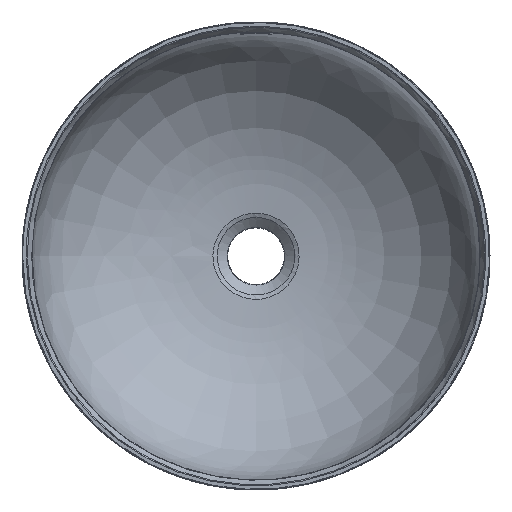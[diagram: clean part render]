
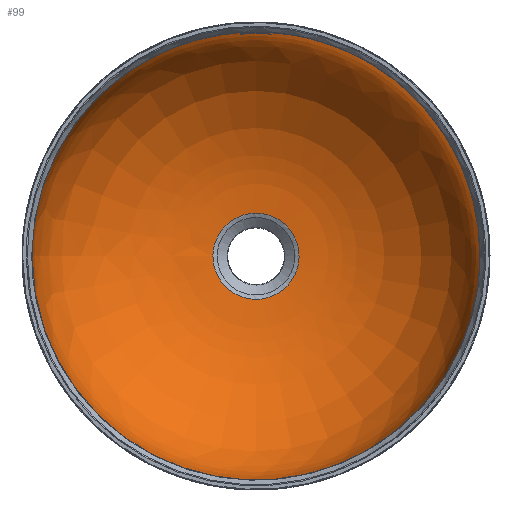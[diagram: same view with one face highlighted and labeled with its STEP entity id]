
A CAD part, top view. The second image highlights one B-rep face of the part: STEP entity #99.
In plain terms, the highlighted free-form (B-spline) face has degree [3, 2] with [4, 9] control points.
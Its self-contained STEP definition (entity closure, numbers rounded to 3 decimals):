
#99=ADVANCED_FACE('',(#461),#6076,.T.);
#461=FACE_OUTER_BOUND('',#823,.T.);
#823=EDGE_LOOP('',(#1191,#1192,#1193,#1194,#1195));
#1191=ORIENTED_EDGE('',*,*,#3250,.F.);
#1192=ORIENTED_EDGE('',*,*,#3249,.F.);
#1193=ORIENTED_EDGE('',*,*,#3250,.T.);
#1194=ORIENTED_EDGE('',*,*,#4048,.T.);
#1195=ORIENTED_EDGE('',*,*,#4046,.T.);
#3249=EDGE_CURVE('',#5309,#5309,#4989,.T.);
#3250=EDGE_CURVE('',#5309,#5833,#4990,.T.);
#4046=EDGE_CURVE('',#5836,#5833,#5271,.T.);
#4048=EDGE_CURVE('',#5833,#5836,#5273,.T.);
#4989=(
BOUNDED_CURVE()
B_SPLINE_CURVE(2,(#39214,#39215,#39216,#39217,#39218,#39219,#39220,#39221,
#39222),.UNSPECIFIED.,.T.,.F.)
B_SPLINE_CURVE_WITH_KNOTS((3,2,2,2,3),(0.,285.604,571.207,
856.811,1142.414),.UNSPECIFIED.)
CURVE()
GEOMETRIC_REPRESENTATION_ITEM()
RATIONAL_B_SPLINE_CURVE((1.,0.707,1.,0.707,1.,0.707,
1.,0.707,1.))
REPRESENTATION_ITEM('')
);
#4990=(
BOUNDED_CURVE()
B_SPLINE_CURVE(3,(#39223,#39224,#39225,#39226),.UNSPECIFIED.,.F.,.F.)
B_SPLINE_CURVE_WITH_KNOTS((4,4),(0.,212.829),.UNSPECIFIED.)
CURVE()
GEOMETRIC_REPRESENTATION_ITEM()
RATIONAL_B_SPLINE_CURVE((1.,1.,1.,1.))
REPRESENTATION_ITEM('')
);
#5271=(
BOUNDED_CURVE()
B_SPLINE_CURVE(2,(#57027,#57028,#57029,#57030,#57031,#57032,#57033),
 .UNSPECIFIED.,.F.,.F.)
B_SPLINE_CURVE_WITH_KNOTS((3,2,2,3),(-579.014,-579.014,
-289.507,0.),.UNSPECIFIED.)
CURVE()
GEOMETRIC_REPRESENTATION_ITEM()
RATIONAL_B_SPLINE_CURVE((1.,1.,1.,0.707,1.,0.707,
1.))
REPRESENTATION_ITEM('')
);
#5273=(
BOUNDED_CURVE()
B_SPLINE_CURVE(2,(#57043,#57044,#57045,#57046,#57047),.UNSPECIFIED.,.F.,
 .F.)
B_SPLINE_CURVE_WITH_KNOTS((3,2,3),(-1158.028,-868.521,
-579.014),.UNSPECIFIED.)
CURVE()
GEOMETRIC_REPRESENTATION_ITEM()
RATIONAL_B_SPLINE_CURVE((1.,0.707,1.,0.707,1.))
REPRESENTATION_ITEM('')
);
#5309=VERTEX_POINT('',#38677);
#5833=VERTEX_POINT('',#39201);
#5836=VERTEX_POINT('',#39204);
#6076=(
BOUNDED_SURFACE()
B_SPLINE_SURFACE(3,2,((#6559,#6560,#6561,#6562,#6563,#6564,#6565,#6566,
#6567),(#6568,#6569,#6570,#6571,#6572,#6573,#6574,#6575,#6576),(#6577,#6578,
#6579,#6580,#6581,#6582,#6583,#6584,#6585),(#6586,#6587,#6588,#6589,#6590,
#6591,#6592,#6593,#6594)),.UNSPECIFIED.,.F.,.F.,.F.)
B_SPLINE_SURFACE_WITH_KNOTS((4,4),(3,2,2,2,3),(0.,213.398),(0.,
285.604,571.207,856.811,1142.414),
 .UNSPECIFIED.)
GEOMETRIC_REPRESENTATION_ITEM()
RATIONAL_B_SPLINE_SURFACE(((1.,0.707,1.,0.707,1.,
0.707,1.,0.707,1.),(1.,0.707,1.,0.707,
1.,0.707,1.,0.707,1.),(1.,0.707,1.,
0.707,1.,0.707,1.,0.707,1.),(1.,0.707,
1.,0.707,1.,0.707,1.,0.707,1.)))
REPRESENTATION_ITEM('')
SURFACE()
);
#6559=CARTESIAN_POINT('',(18949.344,1341.326,-6009.424));
#6560=CARTESIAN_POINT('',(18949.344,1306.355,-6009.424));
#6561=CARTESIAN_POINT('',(18984.316,1306.355,-6009.424));
#6562=CARTESIAN_POINT('',(19019.287,1306.355,-6009.424));
#6563=CARTESIAN_POINT('',(19019.287,1341.326,-6009.424));
#6564=CARTESIAN_POINT('',(19019.287,1376.297,-6009.424));
#6565=CARTESIAN_POINT('',(18984.315,1376.297,-6009.424));
#6566=CARTESIAN_POINT('',(18949.344,1376.297,-6009.424));
#6567=CARTESIAN_POINT('',(18949.344,1341.326,-6009.424));
#6568=CARTESIAN_POINT('',(18878.079,1341.326,-6005.862));
#6569=CARTESIAN_POINT('',(18878.08,1235.09,-6005.862));
#6570=CARTESIAN_POINT('',(18984.316,1235.09,-6005.862));
#6571=CARTESIAN_POINT('',(19090.552,1235.09,-6005.862));
#6572=CARTESIAN_POINT('',(19090.552,1341.326,-6005.862));
#6573=CARTESIAN_POINT('',(19090.551,1447.563,-6005.862));
#6574=CARTESIAN_POINT('',(18984.315,1447.562,-6005.862));
#6575=CARTESIAN_POINT('',(18878.079,1447.562,-6005.862));
#6576=CARTESIAN_POINT('',(18878.079,1341.326,-6005.862));
#6577=CARTESIAN_POINT('',(18804.041,1341.326,-5963.209));
#6578=CARTESIAN_POINT('',(18804.041,1161.052,-5963.209));
#6579=CARTESIAN_POINT('',(18984.315,1161.052,-5963.209));
#6580=CARTESIAN_POINT('',(19164.59,1161.052,-5963.209));
#6581=CARTESIAN_POINT('',(19164.59,1341.326,-5963.209));
#6582=CARTESIAN_POINT('',(19164.59,1521.6,-5963.209));
#6583=CARTESIAN_POINT('',(18984.316,1521.6,-5963.209));
#6584=CARTESIAN_POINT('',(18804.041,1521.6,-5963.209));
#6585=CARTESIAN_POINT('',(18804.041,1341.326,-5963.209));
#6586=CARTESIAN_POINT('',(18802.495,1341.326,-5883.826));
#6587=CARTESIAN_POINT('',(18802.495,1159.505,-5883.826));
#6588=CARTESIAN_POINT('',(18984.315,1159.505,-5883.826));
#6589=CARTESIAN_POINT('',(19166.136,1159.505,-5883.826));
#6590=CARTESIAN_POINT('',(19166.136,1341.326,-5883.826));
#6591=CARTESIAN_POINT('',(19166.136,1523.147,-5883.826));
#6592=CARTESIAN_POINT('',(18984.315,1523.147,-5883.826));
#6593=CARTESIAN_POINT('',(18802.495,1523.147,-5883.826));
#6594=CARTESIAN_POINT('',(18802.495,1341.326,-5883.826));
#38677=CARTESIAN_POINT('',(18949.344,1341.326,-6009.424));
#39201=CARTESIAN_POINT('',(18802.509,1341.326,-5884.461));
#39204=CARTESIAN_POINT('',(19166.123,1341.326,-5884.461));
#39214=CARTESIAN_POINT('',(18949.344,1341.326,-6009.424));
#39215=CARTESIAN_POINT('',(18949.344,1306.355,-6009.424));
#39216=CARTESIAN_POINT('',(18984.316,1306.355,-6009.424));
#39217=CARTESIAN_POINT('',(19019.287,1306.355,-6009.424));
#39218=CARTESIAN_POINT('',(19019.287,1341.326,-6009.424));
#39219=CARTESIAN_POINT('',(19019.287,1376.297,-6009.424));
#39220=CARTESIAN_POINT('',(18984.315,1376.297,-6009.424));
#39221=CARTESIAN_POINT('',(18949.344,1376.297,-6009.424));
#39222=CARTESIAN_POINT('',(18949.344,1341.326,-6009.424));
#39223=CARTESIAN_POINT('',(18949.344,1341.326,-6009.424));
#39224=CARTESIAN_POINT('',(18878.269,1341.326,-6005.871));
#39225=CARTESIAN_POINT('',(18804.436,1341.326,-5963.436));
#39226=CARTESIAN_POINT('',(18802.509,1341.326,-5884.461));
#57027=CARTESIAN_POINT('',(19166.123,1341.326,-5884.461));
#57028=CARTESIAN_POINT('',(19166.123,1341.326,-5884.461));
#57029=CARTESIAN_POINT('',(19166.123,1341.326,-5884.461));
#57030=CARTESIAN_POINT('',(19166.123,1523.133,-5884.461));
#57031=CARTESIAN_POINT('',(18984.316,1523.133,-5884.461));
#57032=CARTESIAN_POINT('',(18802.509,1523.133,-5884.461));
#57033=CARTESIAN_POINT('',(18802.509,1341.326,-5884.461));
#57043=CARTESIAN_POINT('',(18802.509,1341.326,-5884.461));
#57044=CARTESIAN_POINT('',(18802.509,1159.519,-5884.461));
#57045=CARTESIAN_POINT('',(18984.316,1159.519,-5884.461));
#57046=CARTESIAN_POINT('',(19166.123,1159.519,-5884.461));
#57047=CARTESIAN_POINT('',(19166.123,1341.326,-5884.461));
